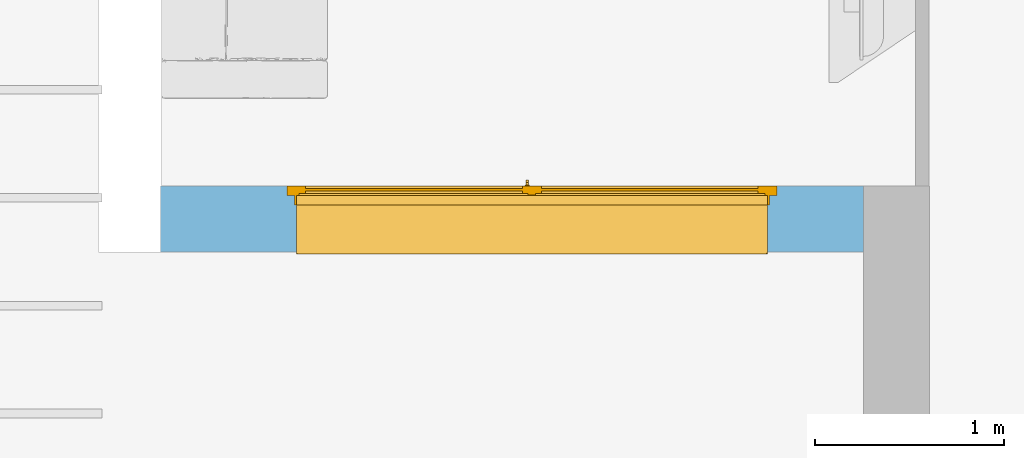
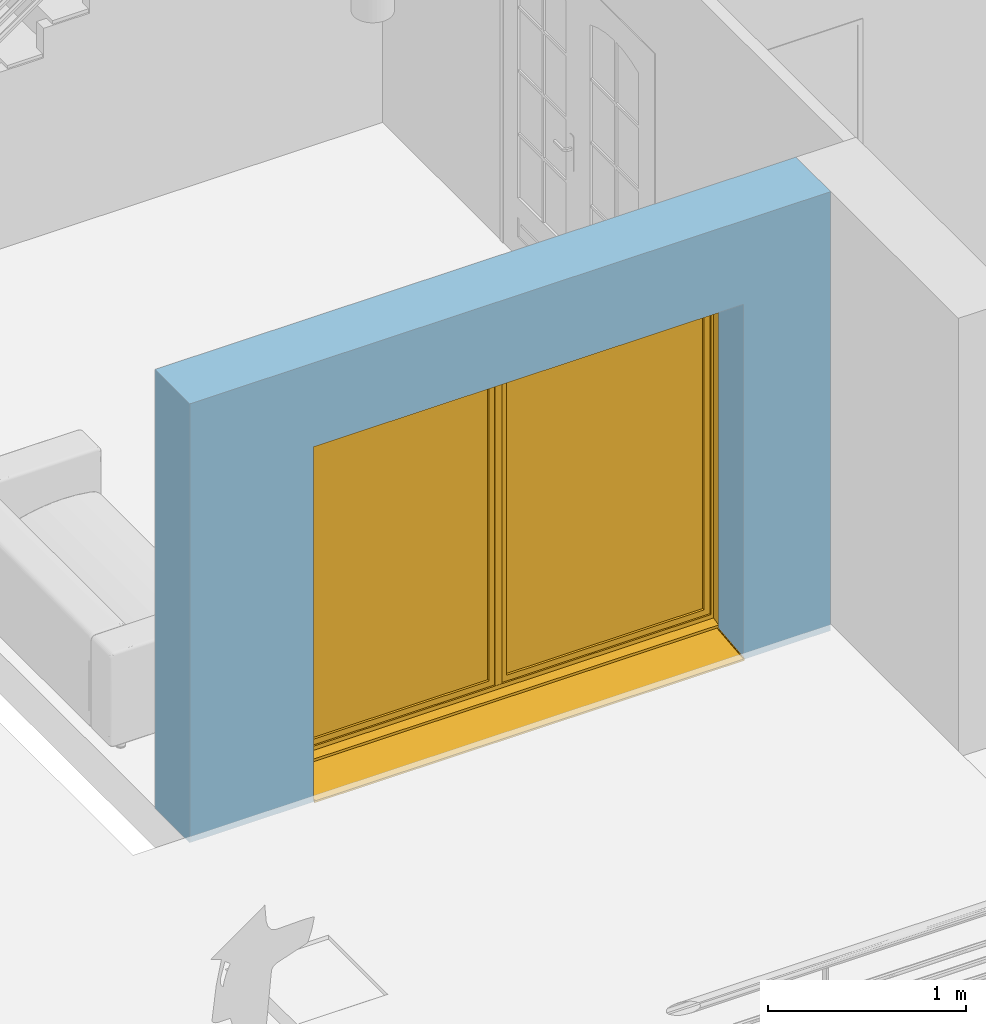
# One storey, part 7 of 15: 1 window, 1 opening, plus 1 element that does not belong to this part.
"""IFC2X3 building model written with IfcOpenShell, lengths in metres."""

from ifc_helpers import new_model, entity, si_unit, converted_unit, derived_unit, direction, frame, frame_2d, origin, place, context, subcontext, project, spatial, polyline, rectangle, extrude, clip, bounded_halfspace, faceted_brep, source, transform, mapped, material, material_list, layer, layer_set, layer_usage, type_object, type_shapes, element, fill, save


model = new_model("IFC2X3")

# Units and contexts
model_context = context("Model", 3, precision=1e-05, world=origin(), true_north=direction((6.12303176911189e-17, 1.0)))
body_context = subcontext(model_context, "Body", "Model", "MODEL_VIEW")
ifc_project = project(units=[si_unit("LENGTHUNIT", "METRE"), si_unit("AREAUNIT", "SQUARE_METRE"), si_unit("VOLUMEUNIT", "CUBIC_METRE"), converted_unit("PLANEANGLEUNIT", "DEGREE", entity("IfcRatioMeasure", 0.0174532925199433), si_unit("PLANEANGLEUNIT", "RADIAN"), dimensions=[0, 0, 0, 0, 0, 0, 0]), si_unit("MASSUNIT", "GRAM", prefix="KILO"), derived_unit("MASSDENSITYUNIT", [(si_unit("MASSUNIT", "GRAM", prefix="KILO"), 1), (si_unit("LENGTHUNIT", "METRE"), -3)]), derived_unit("MOMENTOFINERTIAUNIT", [(si_unit("LENGTHUNIT", "METRE"), 4)]), si_unit("TIMEUNIT", "SECOND"), si_unit("FREQUENCYUNIT", "HERTZ"), si_unit("THERMODYNAMICTEMPERATUREUNIT", "DEGREE_CELSIUS"), derived_unit("THERMALTRANSMITTANCEUNIT", [(si_unit("MASSUNIT", "GRAM", prefix="KILO"), 1), (si_unit("THERMODYNAMICTEMPERATUREUNIT", "KELVIN"), -1), (si_unit("TIMEUNIT", "SECOND"), -3)]), derived_unit("VOLUMETRICFLOWRATEUNIT", [(si_unit("LENGTHUNIT", "METRE"), 3), (si_unit("TIMEUNIT", "SECOND"), -1)]), si_unit("ELECTRICCURRENTUNIT", "AMPERE"), si_unit("ELECTRICVOLTAGEUNIT", "VOLT"), si_unit("POWERUNIT", "WATT"), si_unit("FORCEUNIT", "NEWTON", prefix="KILO"), si_unit("ILLUMINANCEUNIT", "LUX"), si_unit("LUMINOUSFLUXUNIT", "LUMEN"), si_unit("LUMINOUSINTENSITYUNIT", "CANDELA"), derived_unit("USERDEFINED", [(si_unit("MASSUNIT", "GRAM", prefix="KILO"), -1), (si_unit("LENGTHUNIT", "METRE"), -2), (si_unit("TIMEUNIT", "SECOND"), 3), (si_unit("LUMINOUSFLUXUNIT", "LUMEN"), 1)]), derived_unit("LINEARVELOCITYUNIT", [(si_unit("LENGTHUNIT", "METRE"), 1), (si_unit("TIMEUNIT", "SECOND"), -1)]), si_unit("PRESSUREUNIT", "PASCAL"), derived_unit("USERDEFINED", [(si_unit("LENGTHUNIT", "METRE"), -2), (si_unit("MASSUNIT", "GRAM", prefix="KILO"), 1), (si_unit("TIMEUNIT", "SECOND"), -2)]), derived_unit("LINEARFORCEUNIT", [(si_unit("MASSUNIT", "GRAM", prefix="KILO"), 1), (si_unit("LENGTHUNIT", "METRE"), 1), (si_unit("TIMEUNIT", "SECOND"), -2), (si_unit("LENGTHUNIT", "METRE"), -1)]), derived_unit("PLANARFORCEUNIT", [(si_unit("MASSUNIT", "GRAM", prefix="KILO"), 1), (si_unit("LENGTHUNIT", "METRE"), 1), (si_unit("TIMEUNIT", "SECOND"), -2), (si_unit("LENGTHUNIT", "METRE"), -2)])], contexts=[model_context])

# Site, building, storey
site_placement = place(None, origin())
site = spatial("IfcSite", under=ifc_project, at=site_placement, Name="Surface", CompositionType="ELEMENT")
building_placement = place(site_placement, origin())
building = spatial("IfcBuilding", under=site, at=building_placement, CompositionType="ELEMENT")
storey_placement = place(building_placement, frame((0.0, 0.0, 2.65)))
storey = spatial("IfcBuildingStorey", under=building, at=storey_placement, Name="Niveau étage", CompositionType="ELEMENT", Elevation=2.65)

# Wall, opening, window
ifc_material_1 = material(Name="Maçonnerie - Isolant")
ifc_layer_1 = layer(ifc_material_1, 0.03)
ifc_material_2 = material(Name="Blocs béton manufacturés")
ifc_layer_2 = layer(ifc_material_2, 0.3)
ifc_layer_3 = layer(ifc_material_1, 0.02)
ifc_layer_set = layer_set([ifc_layer_1, ifc_layer_2, ifc_layer_3], Name="Mur de base:Ext. Parpaing 35")
ifc_layer_usage = layer_usage(ifc_layer_set, "AXIS2", "NEGATIVE", 0.175)
wall_type = type_object("IfcWallType", Name="Mur de base:Ext. Parpaing 35", PredefinedType="STANDARD", material=ifc_layer_set)
wall_placement = place(storey_placement, frame((5.61281713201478, 1.03473483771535, 0.0), z_axis=(0.0, 0.0, 1.0), x_axis=(-1.0, 0.0, 0.0)))
wall = element("IfcWallStandardCase", 1, at=wall_placement, inside=storey, type_object=wall_type, material=ifc_layer_usage, Name="Mur de base:Ext. Parpaing 35", ObjectType="Mur de base:Ext. Parpaing 35", context=body_context, shape_type="Clipping", body=[
    clip(extrude(rectangle(XDim=3.72842105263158, YDim=0.35, at=frame_2d((1.86421052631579, -4.16333634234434e-17), x_axis=(-1.0, 0.0))), origin(), (0.0, 0.0, 1.0), 2.7), bounded_halfspace(frame((0.0, -0.175, 2.7), z_axis=(0.0, 0.0, -1.0), x_axis=(1.0, 0.0, 0.0)), True, frame((0.0, -0.175, 2.7)), polyline([(0.0, 0.0), (3.72842105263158, 0.0), (3.72842105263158, 0.35), (0.0, 0.35), (0.0, 0.0)]))),
])
opening_placement = place(wall_placement, frame((3.05842105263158, 0.500000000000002, 0.0), z_axis=(0.0, 0.0, 1.0), x_axis=(-1.0, 0.0, 0.0)))
opening = element("IfcOpeningElement", 2, at=opening_placement, cuts=wall, Name="Mur de base:Ext. Parpaing 35", ObjectType="Opening", context=body_context, shape_type="Brep", body=[
    faceted_brep([(2.55, 0.594999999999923, 0.0350000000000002), (2.55, 0.575, 0.0350000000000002), (2.55, 0.575, 2.185), (2.55, 0.0, 2.185), (2.55, 0.0, 0.0), (2.55, 0.261997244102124, 0.0), (0.0500000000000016, 1.0, 0.0350000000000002), (0.0500000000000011, 0.675000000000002, 0.0350000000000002), (0.0500000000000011, 0.675000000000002, 2.185), (0.0500000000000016, 1.0, 2.185), (2.55, 1.0, 0.0350000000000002), (2.55, 0.675000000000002, 0.0350000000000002), (2.6, 0.675000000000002, 0.0350000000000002), (2.6, 0.625000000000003, 0.0350000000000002), (2.56, 0.625000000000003, 0.0350000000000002), (2.56, 0.575, 0.0350000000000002), (0.0500000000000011, 0.594999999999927, 0.0349999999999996), (0.0500000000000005, 0.574999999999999, 0.0350000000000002), (0.0400000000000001, 0.574999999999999, 0.0350000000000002), (0.0400000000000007, 0.625000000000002, 0.0350000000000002), (0.0, 0.625000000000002, 0.0350000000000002), (0.0, 0.675000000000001, 0.0350000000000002), (2.55, 1.0, 2.185), (0.0500000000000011, 0.574999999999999, 2.185), (0.05, 0.0, 2.185), (0.05, 0.0, 0.0), (0.05, 0.261997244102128, 0.0), (2.6, 0.675000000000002, 2.235), (2.6, 0.625000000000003, 2.235), (0.0, 0.625000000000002, 2.235), (0.0399999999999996, 0.625000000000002, 2.195), (2.56, 0.625000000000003, 2.195), (2.56, 0.575, 2.195), (0.0399999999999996, 0.574999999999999, 2.195), (2.55, 0.675000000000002, 2.185), (0.0, 0.675000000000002, 2.235)], [[[0, 1, 2, 3, 4, 5]], [[6, 7, 8, 9]], [[10, 11, 12, 13, 14, 15, 1, 0, 16, 17, 18, 19, 20, 21, 7, 6]], [[10, 6, 9, 22]], [[3, 2, 23, 24]], [[3, 24, 25, 4]], [[4, 25, 26, 5]], [[5, 26, 16, 0]], [[12, 27, 28, 13]], [[13, 28, 29, 20, 19, 30, 31, 14]], [[14, 31, 32, 15]], [[15, 32, 33, 18, 17, 23, 2, 1]], [[11, 34, 8, 7, 21, 35, 27, 12]], [[27, 35, 29, 28]], [[30, 33, 32, 31]], [[29, 35, 21, 20]], [[19, 18, 33, 30]], [[9, 8, 34, 22]], [[24, 23, 17, 16, 26, 25]], [[22, 34, 11, 10]]]),
])
ifc_material_3 = material(Name="Fenêtre - Poignée")
ifc_material_4 = material(Name="Fenêtre - Appui")
ifc_material_5 = material(Name="Fenêtre - Cadre(1)")
ifc_material_6 = material(Name="Fenêtre - Vitrage")
ifc_material_7 = material(Name="Fenêtre - Cadre")
ifc_material_list_1 = material_list([ifc_material_3, ifc_material_4, ifc_material_5, ifc_material_6, ifc_material_7])
ifc_material_list_2 = material_list([ifc_material_7, ifc_material_6, ifc_material_5, ifc_material_3, ifc_material_4])
window_style = type_object("IfcWindowStyle", Name="PF 2 Vantaux - Droits:1.50m x 2.15m", ConstructionType="NOTDEFINED", OperationType="DOUBLE_PANEL_VERTICAL", ParameterTakesPrecedence=False, Sizeable=False, material=ifc_material_list_2)
shared_shape = source(origin(), body_context, "Body", "Brep", [
    faceted_brep([(1.33064600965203, -0.681000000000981, 1.12203392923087), (1.33203392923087, -0.681000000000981, 1.12064600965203), (1.33203392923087, -0.681000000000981, 1.10933230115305), (1.33066769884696, -0.681000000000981, 1.10796607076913), (1.31933230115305, -0.681000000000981, 1.10796607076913), (1.31796607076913, -0.681000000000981, 1.10933230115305), (1.31796607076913, -0.681000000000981, 1.12064600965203), (1.31935399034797, -0.681000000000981, 1.12203392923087), (1.33064600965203, -0.69391354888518, 1.12203392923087), (1.33203392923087, -0.693338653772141, 1.12064600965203), (1.33203392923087, -0.706646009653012, 1.10733865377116), (1.33203392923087, -0.706646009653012, 1.02), (1.33203392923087, -0.695332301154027, 1.02), (1.33203392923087, -0.695332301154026, 1.10265236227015), (1.33203392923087, -0.688652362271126, 1.10933230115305), (1.33066769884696, -0.688086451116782, 1.10796607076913), (1.31933230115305, -0.688086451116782, 1.10796607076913), (1.31796607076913, -0.688652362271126, 1.10933230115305), (1.31796607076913, -0.695332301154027, 1.10265236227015), (1.31796607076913, -0.695332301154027, 1.02), (1.31796607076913, -0.706646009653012, 1.02), (1.31796607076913, -0.706646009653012, 1.10733865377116), (1.31796607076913, -0.693338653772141, 1.12064600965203), (1.31935399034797, -0.69391354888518, 1.12203392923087), (1.33064600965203, -0.708033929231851, 1.1079135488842), (1.33066769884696, -0.693966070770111, 1.1020864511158), (1.31933230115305, -0.693966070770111, 1.1020864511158), (1.31935399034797, -0.708033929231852, 1.1079135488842), (1.33064600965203, -0.708033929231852, 1.02), (1.31935399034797, -0.708033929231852, 1.02), (1.31933230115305, -0.693966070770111, 1.02), (1.33066769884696, -0.693966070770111, 1.02)], [[[0, 1, 2, 3, 4, 5, 6, 7]], [[1, 0, 8, 9]], [[2, 1, 9, 10, 11, 12, 13, 14]], [[3, 2, 14, 15]], [[4, 3, 15, 16]], [[5, 4, 16, 17]], [[6, 5, 17, 18, 19, 20, 21, 22]], [[7, 6, 22, 23]], [[0, 7, 23, 8]], [[9, 8, 24, 10]], [[15, 14, 13, 25]], [[16, 15, 25, 26]], [[17, 16, 26, 18]], [[23, 22, 21, 27]], [[8, 23, 27, 24]], [[28, 29, 20, 19, 30, 31, 12, 11]], [[10, 24, 28, 11]], [[25, 13, 12, 31]], [[26, 25, 31, 30]], [[18, 26, 30, 19]], [[27, 21, 20, 29]], [[24, 27, 29, 28]]]),
    faceted_brep([(1.33200000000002, -0.681000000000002, 1.14), (1.318, -0.681000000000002, 1.14), (1.313, -0.681000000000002, 1.135), (1.313, -0.681000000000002, 1.06499999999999), (1.31799999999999, -0.681000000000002, 1.06), (1.33200000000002, -0.681000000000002, 1.06), (1.337, -0.681000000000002, 1.06499999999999), (1.337, -0.681000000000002, 1.135), (1.33200000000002, -0.675000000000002, 1.14), (1.337, -0.675000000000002, 1.135), (1.337, -0.675000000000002, 1.06499999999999), (1.33200000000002, -0.675000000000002, 1.06), (1.31799999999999, -0.675000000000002, 1.06), (1.313, -0.675000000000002, 1.06499999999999), (1.313, -0.675000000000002, 1.135), (1.318, -0.675000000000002, 1.14)], [[[0, 1, 2, 3, 4, 5, 6, 7]], [[8, 9, 10, 11, 12, 13, 14, 15]], [[1, 0, 8, 15]], [[2, 1, 15, 14]], [[3, 2, 14, 13]], [[4, 3, 13, 12]], [[5, 4, 12, 11]], [[6, 5, 11, 10]], [[7, 6, 10, 9]], [[0, 7, 9, 8]]]),
    faceted_brep([(2.55, -0.314971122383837, 0.0108229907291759), (2.55, -0.589999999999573, 0.0397296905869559), (2.55, -0.589999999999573, 0.0499999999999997), (2.55, -0.594999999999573, 0.0499999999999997), (2.55, -0.594999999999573, 0.0349999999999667), (2.55, -0.319971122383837, 0.00609330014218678), (2.55, -0.319971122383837, 0.000270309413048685), (2.55, -0.314971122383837, -0.000255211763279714), (0.0500000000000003, -0.314971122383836, 0.0108229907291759), (0.0500000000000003, -0.314971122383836, -0.000255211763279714), (0.0500000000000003, -0.319971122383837, 0.000270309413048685), (0.0500000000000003, -0.319971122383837, 0.00609330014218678), (0.0500000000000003, -0.594999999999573, 0.0349999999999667), (0.0500000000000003, -0.594999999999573, 0.0499999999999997), (0.0500000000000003, -0.589999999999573, 0.0499999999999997), (0.0500000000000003, -0.589999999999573, 0.0397296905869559)], [[[0, 1, 2, 3, 4, 5, 6, 7]], [[8, 9, 10, 11, 12, 13, 14, 15]], [[1, 0, 8, 15]], [[2, 1, 15, 14]], [[3, 2, 14, 13]], [[4, 3, 13, 12]], [[5, 4, 12, 11]], [[6, 5, 11, 10]], [[7, 6, 10, 9]], [[0, 7, 9, 8]]]),
    faceted_brep([(0.0500000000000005, -0.314971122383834, 0.0122489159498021), (0.0500000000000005, -0.314971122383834, 0.0108229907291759), (0.05, -0.589999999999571, 0.0397296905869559), (0.05, -0.589999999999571, 0.0447572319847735), (0.0500000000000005, -0.318553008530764, 0.0162270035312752), (0.0500000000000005, -0.315998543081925, 0.0149254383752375), (0.055, -0.589999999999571, 0.0447572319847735), (0.055, -0.589999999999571, 0.0397296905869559), (0.0550000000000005, -0.314971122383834, 0.0108229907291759), (0.0550000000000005, -0.314971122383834, 0.0122489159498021), (0.0550000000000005, -0.315998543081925, 0.0149254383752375), (0.0550000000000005, -0.318553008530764, 0.0162270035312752)], [[[0, 1, 2, 3, 4, 5]], [[6, 7, 8, 9, 10, 11]], [[2, 1, 8, 7]], [[3, 2, 7, 6]], [[4, 3, 6, 11]], [[4, 11, 10, 5]], [[10, 9, 0, 5]], [[1, 0, 9, 8]]]),
    faceted_brep([(2.545, -0.314971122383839, 0.0122489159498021), (2.545, -0.314971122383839, 0.0108229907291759), (2.545, -0.589999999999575, 0.0397296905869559), (2.545, -0.589999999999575, 0.0447572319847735), (2.545, -0.318553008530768, 0.0162270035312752), (2.545, -0.315998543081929, 0.0149254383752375), (2.55, -0.589999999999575, 0.0447572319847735), (2.55, -0.589999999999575, 0.0397296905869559), (2.55, -0.314971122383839, 0.0108229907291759), (2.55, -0.314971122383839, 0.0122489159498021), (2.55, -0.315998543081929, 0.0149254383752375), (2.55, -0.318553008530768, 0.0162270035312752)], [[[0, 1, 2, 3, 4, 5]], [[6, 7, 8, 9, 10, 11]], [[2, 1, 8, 7]], [[3, 2, 7, 6]], [[4, 3, 6, 11]], [[4, 11, 10, 5]], [[10, 9, 0, 5]], [[1, 0, 9, 8]]]),
    faceted_brep([(1.3, -0.634999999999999, 2.185), (1.3, -0.674999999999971, 2.185), (1.3, -0.674999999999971, 0.0850000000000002), (1.3, -0.634999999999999, 0.0850000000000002), (0.0499999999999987, -0.674999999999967, 0.0850000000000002), (0.0499999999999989, -0.634999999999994, 0.0850000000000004), (0.0499999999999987, -0.674999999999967, 2.185), (0.0999999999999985, -0.674999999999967, 0.135), (0.0999999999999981, -0.674999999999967, 2.135), (1.25, -0.674999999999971, 2.135), (1.25, -0.674999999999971, 0.135), (0.0499999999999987, -0.634999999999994, 2.185), (1.25, -0.634999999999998, 0.135), (1.25, -0.634999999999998, 2.135), (0.0999999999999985, -0.634999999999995, 2.135), (0.0999999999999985, -0.634999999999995, 0.135)], [[[0, 1, 2, 3]], [[3, 2, 4, 5]], [[2, 1, 6, 4], [7, 8, 9, 10]], [[5, 4, 6, 11]], [[5, 11, 0, 3], [12, 13, 14, 15]], [[9, 13, 12, 10]], [[10, 12, 15, 7]], [[7, 15, 14, 8]], [[11, 6, 1, 0]], [[8, 14, 13, 9]]]),
    faceted_brep([(1.35, -0.649000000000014, 0.135000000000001), (1.35, -0.649000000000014, 2.135), (2.5, -0.649000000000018, 2.135), (2.5, -0.649000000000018, 0.135000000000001), (1.35, -0.661000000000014, 0.135000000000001), (1.35, -0.661000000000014, 2.135), (2.5, -0.661000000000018, 2.135), (2.5, -0.661000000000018, 0.135000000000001)], [[[0, 1, 2, 3]], [[1, 0, 4, 5]], [[3, 2, 6, 7]], [[0, 3, 7, 4]], [[2, 1, 5, 6]], [[4, 7, 6, 5]]]),
    faceted_brep([(1.25, -0.649000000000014, 0.135), (1.25, -0.649000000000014, 2.135), (1.25, -0.661000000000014, 2.135), (1.25, -0.661000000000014, 0.135), (0.0999999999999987, -0.64900000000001, 0.135), (0.0999999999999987, -0.66100000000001, 0.135), (0.0999999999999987, -0.64900000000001, 2.135), (0.0999999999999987, -0.66100000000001, 2.135)], [[[0, 1, 2, 3]], [[4, 0, 3, 5]], [[6, 4, 5, 7]], [[7, 5, 3, 2]], [[1, 6, 7, 2]], [[6, 1, 0, 4]]]),
    faceted_brep([(1.35, -0.635000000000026, 2.135), (1.35, -0.675000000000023, 2.135), (1.35, -0.675000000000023, 0.135), (1.35, -0.635000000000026, 0.135), (2.5, -0.675000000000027, 0.135), (2.5, -0.63500000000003, 0.135), (2.5, -0.675000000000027, 2.135), (2.55, -0.675000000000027, 0.0850000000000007), (2.55, -0.675000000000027, 2.185), (1.3, -0.675000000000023, 2.185), (1.3, -0.675000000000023, 0.0850000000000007), (2.5, -0.63500000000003, 2.135), (1.3, -0.635000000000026, 0.0850000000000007), (1.3, -0.635000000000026, 2.185), (2.55, -0.63500000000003, 2.185), (2.55, -0.63500000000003, 0.0850000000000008)], [[[0, 1, 2, 3]], [[3, 2, 4, 5]], [[2, 1, 6, 4], [7, 8, 9, 10]], [[5, 4, 6, 11]], [[5, 11, 0, 3], [12, 13, 14, 15]], [[9, 13, 12, 10]], [[10, 12, 15, 7]], [[7, 15, 14, 8]], [[11, 6, 1, 0]], [[8, 14, 13, 9]]], outer=[[True], [True], [False, True], [True], [False, True], [True], [True], [True], [True], [True]]),
    faceted_brep([(0.0, -0.675000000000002, 0.0350000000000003), (0.0, -0.625000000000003, 0.0350000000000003), (0.0499999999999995, -0.625000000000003, 0.0350000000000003), (0.0499999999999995, -0.595000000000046, 0.0350000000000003), (2.55, -0.59500000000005, 0.0350000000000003), (2.55, -0.625000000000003, 0.0350000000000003), (2.6, -0.625000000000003, 0.0350000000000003), (2.6, -0.675000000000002, 0.0350000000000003), (0.0, -0.675000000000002, 2.235), (0.0, -0.625000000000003, 2.235), (2.6, -0.625000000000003, 2.235), (2.55, -0.625000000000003, 0.0743761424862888), (0.0499999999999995, -0.625000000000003, 0.0743761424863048), (0.064999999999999, -0.625000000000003, 2.17), (0.0649999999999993, -0.625000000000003, 0.0999999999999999), (2.535, -0.625000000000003, 0.0999999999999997), (2.535, -0.625000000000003, 2.17), (0.0499999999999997, -0.575000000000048, 0.060978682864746), (0.0499999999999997, -0.575000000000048, 0.0450000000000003), (0.0499999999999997, -0.585000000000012, 0.0450000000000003), (0.0499999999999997, -0.585000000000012, 0.050000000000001), (0.0499999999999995, -0.595000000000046, 0.050000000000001), (2.55, -0.59500000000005, 0.050000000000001), (2.55, -0.585000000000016, 0.050000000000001), (2.55, -0.585000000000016, 0.0450000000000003), (2.55, -0.575000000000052, 0.0450000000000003), (2.55, -0.575000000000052, 0.060978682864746), (2.6, -0.675000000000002, 2.235), (2.55, -0.675000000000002, 2.185), (2.55, -0.675000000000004, 0.0850000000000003), (0.0499999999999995, -0.675000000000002, 0.0850000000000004), (0.0499999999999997, -0.675000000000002, 2.185), (0.064999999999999, -0.635000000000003, 2.17), (0.0649999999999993, -0.635000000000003, 0.0999999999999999), (2.535, -0.635000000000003, 0.1), (2.535, -0.635000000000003, 2.17), (2.55, -0.635000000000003, 2.185), (0.0499999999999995, -0.635000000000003, 2.185), (0.0499999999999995, -0.635000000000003, 0.0850000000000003), (2.55, -0.635000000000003, 0.0850000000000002)], [[[0, 1, 2, 3, 4, 5, 6, 7]], [[1, 0, 8, 9]], [[1, 9, 10, 6, 5, 11, 12, 2], [13, 14, 15, 16]], [[12, 17, 18, 19, 20, 21, 3, 2]], [[3, 21, 22, 4]], [[4, 22, 23, 24, 25, 26, 11, 5]], [[6, 10, 27, 7]], [[0, 7, 27, 8], [28, 29, 30, 31]], [[13, 32, 33, 14]], [[33, 34, 15, 14]], [[35, 16, 15, 34]], [[17, 12, 11, 26]], [[36, 37, 38, 39], [32, 35, 34, 33]], [[38, 37, 31, 30]], [[30, 29, 39, 38]], [[28, 36, 39, 29]], [[18, 17, 26, 25]], [[19, 18, 25, 24]], [[20, 19, 24, 23]], [[21, 20, 23, 22]], [[13, 16, 35, 32]], [[37, 36, 28, 31]], [[10, 9, 8, 27]]]),
    faceted_brep([(0.0499999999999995, -0.575000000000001, 0.0350000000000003), (0.0499999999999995, -0.625000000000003, 0.0350000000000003), (0.039999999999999, -0.625000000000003, 0.0350000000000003), (0.039999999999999, -0.575000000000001, 0.0350000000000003), (0.0499999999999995, -0.575000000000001, 2.185), (0.0499999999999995, -0.625000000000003, 2.185), (2.55, -0.625000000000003, 2.185), (2.55, -0.625000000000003, 0.035), (2.56, -0.625000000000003, 0.0350000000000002), (2.56, -0.625000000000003, 2.195), (0.039999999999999, -0.625000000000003, 2.195), (0.039999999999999, -0.575000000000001, 2.195), (2.56, -0.575000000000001, 2.195), (2.56, -0.575000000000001, 0.035), (2.55, -0.575000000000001, 0.0350000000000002), (2.55, -0.575000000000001, 2.185)], [[[0, 1, 2, 3]], [[1, 0, 4, 5]], [[2, 1, 5, 6, 7, 8, 9, 10]], [[3, 2, 10, 11]], [[0, 3, 11, 12, 13, 14, 15, 4]], [[6, 15, 14, 7]], [[14, 13, 8, 7]], [[12, 9, 8, 13]], [[5, 4, 15, 6]], [[11, 10, 9, 12]]]),
    faceted_brep([(1.32, -0.627000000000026, 2.17), (1.28, -0.627000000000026, 2.17), (1.28, -0.635000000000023, 2.17), (1.32, -0.635000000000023, 2.17), (1.32, -0.627000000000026, 0.0999999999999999), (1.32, -0.635000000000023, 0.0999999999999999), (1.28, -0.635000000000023, 0.0999999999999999), (1.28, -0.627000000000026, 0.0999999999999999)], [[[0, 1, 2, 3]], [[4, 5, 6, 7]], [[1, 0, 4, 7]], [[2, 1, 7, 6]], [[3, 2, 6, 5]], [[0, 3, 5, 4]]]),
])
type_shapes(window_style, [shared_shape])
window_placement = place(opening_placement, frame((2.6, 0.0, 0.0), z_axis=(0.0, 0.0, 1.0), x_axis=(-1.0, 0.0, 0.0)))
window = element("IfcWindow", 3, at=window_placement, inside=storey, type_object=window_style, material=ifc_material_list_1, Name="PF 2 Vantaux - Droits:1.50m x 2.15m", ObjectType="PF 2 Vantaux - Droits:1.50m x 2.15m", OverallHeight=2.265, OverallWidth=2.6, context=body_context, shape_type="MappedRepresentation", body=[
    mapped(shared_shape, transform((0.0, 0.0, 0.0), scale=1.0)),
])
fill(opening, window)

save(model, "model.ifc")
